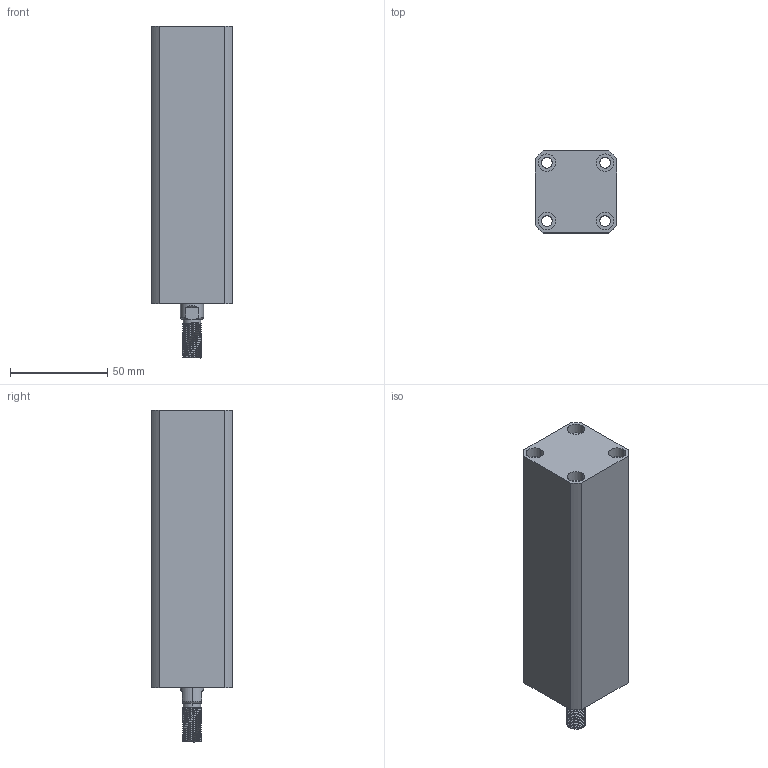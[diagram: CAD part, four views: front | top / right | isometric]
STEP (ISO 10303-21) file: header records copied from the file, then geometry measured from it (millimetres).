
FILE_DESCRIPTION (( 'STEP AP214' ), '1' );
FILE_NAME ('chtb-sd20x100w_asm.STEP', '2018-05-16T09:57:32', ( 'Windows' ), ( 'Microsoft' ), 'SwSTEP 2.0', 'SolidWorks 2015', '' );
FILE_SCHEMA (( 'AUTOMOTIVE_DESIGN' ));
Length unit declared in the file: millimetre
Products named in the file (4): CHTB-SD20X100NBT; chtb-sd20x100w_asm; QG; CHTB-SD20X100WHSG
Assembly tree (3 placements, depth 2):
  chtb-sd20x100w_asm
    CHTB-SD20X100NBT
    CHTB-SD20X100WHSG
    QG
Bounding box: 42 x 42 x 171 mm (x, y, z)
Volume: 211385.1 mm3; surface area: 58235.5 mm2
Topology: 3 solids, 3 shells, 234 faces, 624 edges, 415 vertices
Faces by surface type: cylinder 139, plane 40, torus 25, bspline 21, cone 9
Entity records: 13734 total; most frequent: CARTESIAN_POINT 8172, ORIENTED_EDGE 1240, DIRECTION 1039, EDGE_CURVE 620, AXIS2_PLACEMENT_3D 431, VERTEX_POINT 415, EDGE_LOOP 271, FACE_OUTER_BOUND 234
